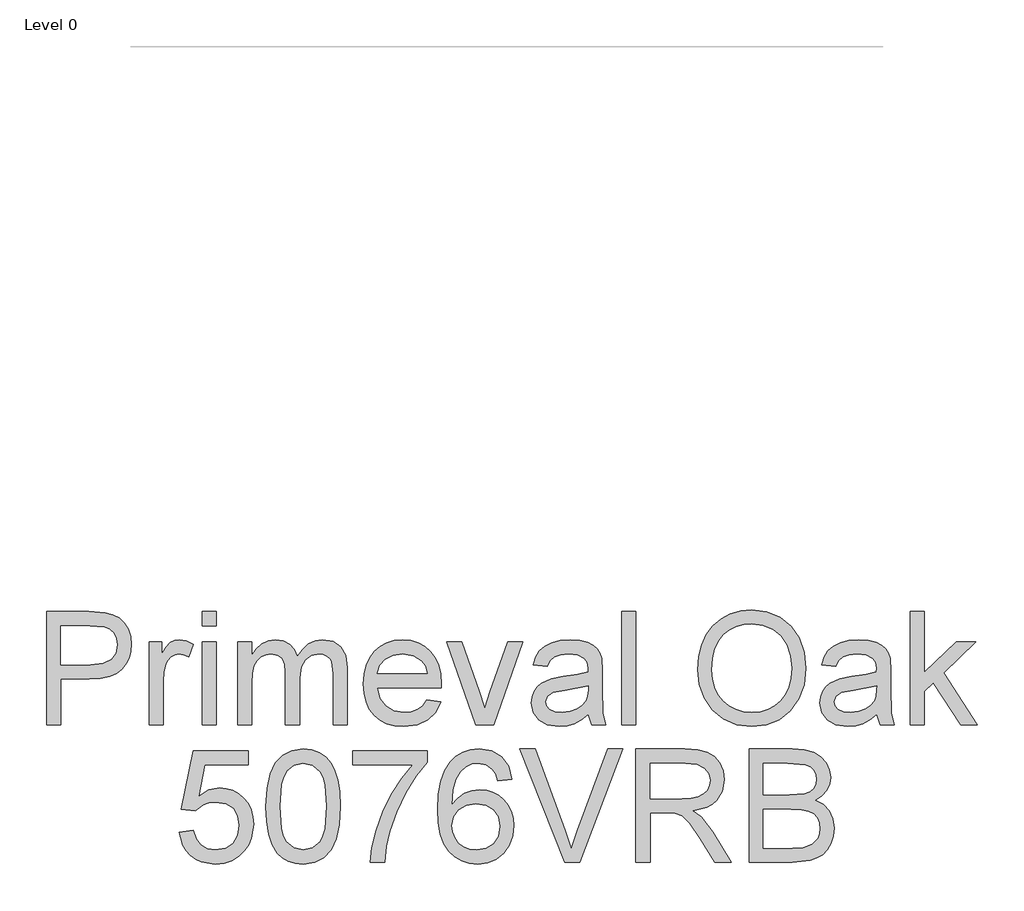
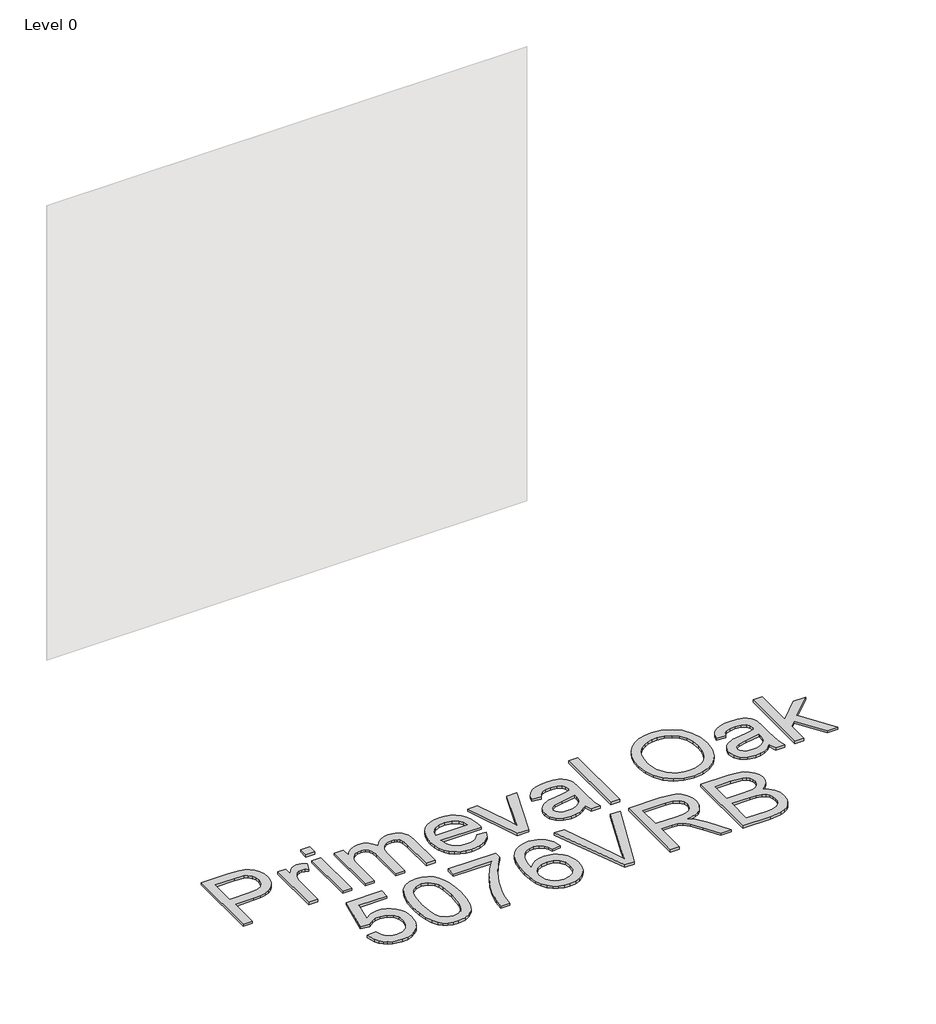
# One storey, part 4 of 43: 1 proxy.
"""IFC4 building model written with IfcOpenShell, lengths in millimetres."""

from ifc_helpers import new_model, si_unit, origin, origin_with_axes, place, context, project, spatial, polyline, outline, extrude, element, save

model = new_model("IFC4")

# Units and contexts
model_context = context("Model", 3, world=origin())
ifc_project = project(units=[si_unit("LENGTHUNIT", "METRE", prefix="MILLI")], contexts=[model_context])

# Site, building, storey
site = spatial("IfcSite", under=ifc_project)
building = spatial("IfcBuilding", under=site)
storey = spatial("IfcBuildingStorey", under=building, Name="Level 0", Elevation=0.0)

# Proxy
placement = place(None, origin())
element("IfcBuildingElementProxy", 1, Name="300mm Arial", ObjectType="300mm Arial", at=placement, inside=storey, context=model_context, shape_type="SweptSolid", body=[
    extrude(outline(polyline([(-10674.9693363, -37030.0303751), (-10674.9693363, -36728.6614447), (-10563.2803625, -36728.6614447), (-10518.2516063, -36731.5309242), (-10498.1744464, -36736.8928043), (-10481.6473478, -36745.6208046), (-10468.3392166, -36758.1103984), (-10457.9189591, -36774.7570587), (-10451.1867186, -36794.3927602), (-10448.9426384, -36815.8494775), (-10450.4578524, -36834.3493434), (-10455.0034943, -36851.3684842), (-10462.5795641, -36866.9068999), (-10473.1860619, -36880.9645907), (-10487.7472911, -36892.6172529), (-10507.1875553, -36900.940583), (-10531.5068544, -36905.9345811), (-10560.7051886, -36907.5992471), (-10637.2982199, -36907.5992471), (-10637.2982199, -37030.0303751), (-10674.9693363, -37030.0303751)]), holes=[polyline([(-10637.2982199, -36869.9281308), (-10558.4978966, -36869.9281308), (-10525.0942114, -36866.4700401), (-10503.0212917, -36856.0957678), (-10490.715639, -36839.4491075), (-10486.6137547, -36817.1738527), (-10489.0325788, -36800.2512809), (-10496.2890512, -36785.9774595), (-10507.4818609, -36775.2353053), (-10521.7096971, -36768.9077349), (-10559.3808134, -36766.332561), (-10637.2982199, -36766.332561), (-10637.2982199, -36869.9281308)])]), origin_with_axes(), (0.0, 0.0, 1.0), 10.0),
    extrude(outline(polyline([(-10401.853743, -37030.0303751), (-10401.853743, -36808.7125668), (-10368.8915163, -36808.7125668), (-10368.8915163, -36841.4540644), (-10356.7146222, -36822.4713534), (-10345.4942214, -36811.2877408), (-10334.2370323, -36805.8246932), (-10321.9497737, -36804.0036773), (-10303.1877919, -36806.909945), (-10284.1315046, -36815.6287483), (-10296.7130688, -36849.4003155), (-10309.9568206, -36843.6061741), (-10323.2005725, -36841.6747936), (-10334.4485645, -36843.5325977), (-10344.50094, -36849.1060099), (-10352.621935, -36857.971966), (-10358.0757856, -36869.7074016), (-10362.6559165, -36890.7502517), (-10364.1826267, -36913.7060882), (-10364.1826267, -37030.0303751), (-10401.853743, -37030.0303751)])), origin_with_axes(), (0.0, 0.0, 1.0), 10.0),
    extrude(outline(polyline([(-10260.5870569, -37030.0303751), (-10260.5870569, -36808.7125668), (-10222.9159406, -36808.7125668), (-10222.9159406, -37030.0303751), (-10260.5870569, -37030.0303751)])), origin_with_axes(), (0.0, 0.0, 1.0), 10.0),
    extrude(outline(polyline([(-10260.5870569, -36766.332561), (-10260.5870569, -36728.6614447), (-10222.9159406, -36728.6614447), (-10222.9159406, -36766.332561), (-10260.5870569, -36766.332561)])), origin_with_axes(), (0.0, 0.0, 1.0), 10.0),
    extrude(outline(polyline([(-10166.4092661, -37030.0303751), (-10166.4092661, -36808.7125668), (-10128.7381498, -36808.7125668), (-10128.7381498, -36845.1328843), (-10117.4073844, -36828.4034506), (-10102.8392574, -36815.2976545), (-10085.5304095, -36806.8271716), (-10065.9774814, -36804.0036773), (-10045.0266018, -36806.8823539), (-10028.2327887, -36815.5183837), (-10015.6880127, -36829.3415497), (-10007.4842442, -36847.7816347), (-9993.7530487, -36828.6287783), (-9978.0904728, -36814.9481666), (-9960.4965164, -36806.7397996), (-9940.9711795, -36804.0036773), (-9912.6534629, -36808.556217), (-9891.7117803, -36822.213836), (-9878.7715311, -36845.3444165), (-9874.4581148, -36878.3158403), (-9874.4581148, -37030.0303751), (-9912.1292311, -37030.0303751), (-9912.1292311, -36894.5026481), (-9915.62411, -36863.0487375), (-9920.5353346, -36854.3759195), (-9928.2792506, -36847.5609055), (-9938.2396557, -36843.1463216), (-9949.8003474, -36841.6747936), (-9970.208601, -36845.445584), (-9986.8460643, -36856.7579554), (-9997.9101153, -36876.3844598), (-10001.5981323, -36905.0976496), (-10001.5981323, -37030.0303751), (-10039.2692486, -37030.0303751), (-10039.2692486, -36890.3087934), (-10041.4489494, -36869.0084258), (-10047.9880519, -36853.8148994), (-10059.4935613, -36844.7098201), (-10076.5724829, -36841.6747936), (-10091.0854276, -36843.6981446), (-10104.4579381, -36849.7681975), (-10115.494398, -36859.7377996), (-10122.9991907, -36873.459798), (-10127.30341, -36892.4976912), (-10128.7381498, -36918.4149778), (-10128.7381498, -37030.0303751), (-10166.4092661, -37030.0303751)])), origin_with_axes(), (0.0, 0.0, 1.0), 10.0),
    extrude(outline(polyline([(-9662.9995439, -36964.1059216), (-9626.0641916, -36968.8148111), (-9639.3723228, -36996.6450841), (-9660.608311, -37017.4488109), (-9689.2939095, -37030.4166512), (-9724.9508719, -37034.7392647), (-9748.3251742, -37032.8745628), (-9769.1518936, -37027.2804572), (-9787.4310303, -37017.9569479), (-9803.1625841, -37004.9040349), (-9815.8131262, -36988.4850016), (-9824.8492277, -36969.0631315), (-9830.2708886, -36946.6384246), (-9832.0781089, -36921.2108809), (-9830.2524945, -36894.9211139), (-9824.7756513, -36871.7491467), (-9815.6475793, -36851.6949794), (-9802.8682785, -36834.7586121), (-9787.1781114, -36821.3033281), (-9769.3174405, -36811.692411), (-9749.2862659, -36805.9258607), (-9727.0845875, -36804.0036773), (-9705.5979797, -36805.9212622), (-9686.1669126, -36811.6740169), (-9668.7913861, -36821.2619414), (-9653.4714002, -36834.6850357), (-9640.9657117, -36851.5846148), (-9632.033077, -36871.6019939), (-9626.6734962, -36894.7371729), (-9624.8869692, -36920.9901518), (-9625.1076984, -36931.1436948), (-9794.4069926, -36931.1436948), (-9787.8862842, -36959.3418497), (-9772.7387431, -36980.0720002), (-9750.8773555, -36992.8191113), (-9724.2151079, -36997.0681484), (-9704.1655392, -36995.0999797), (-9687.2797556, -36989.1954737), (-9673.5577572, -36978.9867483), (-9662.9995439, -36964.1059216)]), holes=[polyline([(-9794.4069926, -36893.4725785), (-9662.5580855, -36893.4725785), (-9667.6532512, -36873.5701626), (-9677.6412473, -36859.3331294), (-9699.6038024, -36846.0893775), (-9727.2317403, -36841.6747936), (-9752.624795, -36845.1972637), (-9773.6216599, -36855.764674), (-9788.217378, -36872.2365903), (-9794.4069926, -36893.4725785)])]), origin_with_axes(), (0.0, 0.0, 1.0), 10.0),
    extrude(outline(polyline([(-9532.9164704, -37030.0303751), (-9610.7603006, -36808.7125668), (-9570.8818923, -36808.7125668), (-9523.7194205, -36941.2972379), (-9509.5191755, -36985.8845357), (-9495.6132361, -36943.7988355), (-9448.1564587, -36808.7125668), (-9408.2780505, -36808.7125668), (-9485.1653875, -37030.0303751), (-9532.9164704, -37030.0303751)])), origin_with_axes(), (0.0, 0.0, 1.0), 10.0),
    extrude(outline(polyline([(-9234.0491375, -37001.7770379), (-9252.0477642, -37017.2096876), (-9270.5798197, -37027.3080484), (-9290.0683684, -37032.8814606), (-9310.9364745, -37034.7392647), (-9342.4179763, -37030.2694984), (-9365.6405272, -37016.8601997), (-9379.9603339, -36996.4979313), (-9384.7336028, -36971.1692559), (-9382.930981, -36955.5526652), (-9377.5231157, -36941.3708143), (-9369.1813914, -36929.2307084), (-9358.5771929, -36919.739353), (-9332.2000539, -36907.3785179), (-9299.6057091, -36901.7131352), (-9261.0884642, -36895.7534469), (-9234.2698667, -36888.763689), (-9234.0491375, -36880.3759795), (-9236.6427056, -36863.5637723), (-9244.4234098, -36852.5641006), (-9261.8242282, -36844.3971204), (-9286.0676517, -36841.6747936), (-9308.5084534, -36843.4866124), (-9324.1802264, -36848.9220689), (-9334.8671983, -36858.9744444), (-9342.3535969, -36874.6370204), (-9380.0247132, -36869.9281308), (-9373.4856108, -36849.3267391), (-9363.7275408, -36833.1399313), (-9349.8399955, -36820.7607022), (-9330.9124669, -36811.5820464), (-9307.7634923, -36805.8982696), (-9281.2116093, -36804.0036773), (-9255.7449782, -36805.6775404), (-9235.5574537, -36810.6991296), (-9220.3363362, -36818.2499075), (-9209.7689259, -36827.5113368), (-9202.7607739, -36838.9616639), (-9198.2174312, -36853.0791354), (-9196.3780212, -36886.0413622), (-9196.3780212, -36932.9095284), (-9194.4650349, -36998.3557353), (-9186.9602422, -37030.0303751), (-9224.6313585, -37030.0303751), (-9234.0491375, -37001.7770379)]), holes=[polyline([(-9234.0491375, -36926.4348053), (-9294.8232432, -36937.9862999), (-9327.2336469, -36944.093141), (-9341.9121385, -36954.0259549), (-9347.0624865, -36968.5205055), (-9344.2573863, -36979.7225123), (-9335.8420856, -36988.9011681), (-9322.0005255, -36995.0264033), (-9302.916647, -36997.0681484), (-9282.6831373, -36994.8148711), (-9264.8040723, -36988.0550395), (-9250.3095217, -36978.0946345), (-9240.2295551, -36966.2396372), (-9235.7597888, -36954.0259549), (-9234.2698667, -36937.1033831), (-9234.0491375, -36926.4348053)])]), origin_with_axes(), (0.0, 0.0, 1.0), 10.0),
    extrude(outline(polyline([(-9144.5802363, -37030.0303751), (-9144.5802363, -36728.6614447), (-9106.90912, -36728.6614447), (-9106.90912, -37030.0303751), (-9144.5802363, -37030.0303751)])), origin_with_axes(), (0.0, 0.0, 1.0), 10.0),
    extrude(outline(polyline([(-8942.0979862, -36883.3190354), (-8939.5871916, -36847.9701742), (-8932.0548077, -36816.677212), (-8919.5008346, -36789.4401488), (-8901.9252723, -36766.2589846), (-8880.381183, -36747.7499217), (-8855.9216288, -36734.5291625), (-8828.5466098, -36726.596707), (-8798.2561261, -36723.9525551), (-8758.7272057, -36728.9189621), (-8723.2817754, -36743.8181829), (-8693.8512158, -36767.6017539), (-8672.3669073, -36799.2212113), (-8659.2335201, -36837.149845), (-8654.8557243, -36879.8609447), (-8659.4634463, -36923.1422614), (-8673.2866123, -36961.604324), (-8695.5618671, -36993.2789638), (-8725.5258556, -37016.1980121), (-8760.6677832, -37030.1039515), (-8798.4768553, -37034.7392647), (-8838.6127809, -37029.6165079), (-8874.2605463, -37014.2482375), (-8903.6175295, -36990.0232081), (-8924.8811088, -36958.3301743), (-8937.7937668, -36921.8638715), (-8942.0979862, -36883.3190354)]), holes=[polyline([(-8904.4268699, -36883.6869174), (-8902.5437739, -36908.6615064), (-8896.894486, -36930.8309951), (-8887.4790062, -36950.1953836), (-8874.2973345, -36966.754672), (-8858.2737743, -36980.0168179), (-8840.3326293, -36989.4897793), (-8820.4738993, -36995.1735561), (-8798.6975845, -36997.0681484), (-8776.5487891, -36995.155162), (-8756.4555344, -36989.4162029), (-8738.4178203, -36979.851271), (-8722.4356469, -36966.4603664), (-8709.3505441, -36949.5515902), (-8700.0040422, -36929.4330435), (-8694.396141, -36906.1047265), (-8692.5268406, -36879.5666391), (-8695.727414, -36846.2181362), (-8705.3291341, -36817.3945819), (-8721.0836805, -36793.8225431), (-8742.742733, -36776.2285866), (-8768.8715517, -36765.2749002), (-8798.0353969, -36761.6236714), (-8819.0552544, -36763.3826072), (-8838.5575986, -36768.6594146), (-8856.5424297, -36777.4540935), (-8873.0097475, -36789.7666441), (-8886.7547385, -36806.1902759), (-8896.5725893, -36827.3181987), (-8902.4632997, -36853.1504126), (-8904.4268699, -36883.6869174)])]), origin_with_axes(), (0.0, 0.0, 1.0), 10.0),
    extrude(outline(polyline([(-8466.5001428, -37001.7770379), (-8484.4987694, -37017.2096876), (-8503.0308249, -37027.3080484), (-8522.5193736, -37032.8814606), (-8543.3874798, -37034.7392647), (-8574.8689815, -37030.2694984), (-8598.0915325, -37016.8601997), (-8612.4113391, -36996.4979313), (-8617.184608, -36971.1692559), (-8615.3819863, -36955.5526652), (-8609.9741209, -36941.3708143), (-8601.6323967, -36929.2307084), (-8591.0281982, -36919.739353), (-8564.6510591, -36907.3785179), (-8532.0567144, -36901.7131352), (-8493.5394695, -36895.7534469), (-8466.720872, -36888.763689), (-8466.5001428, -36880.3759795), (-8469.0937109, -36863.5637723), (-8476.8744151, -36852.5641006), (-8494.2752334, -36844.3971204), (-8518.5186569, -36841.6747936), (-8540.9594586, -36843.4866124), (-8556.6312316, -36848.9220689), (-8567.3182036, -36858.9744444), (-8574.8046022, -36874.6370204), (-8612.4757185, -36869.9281308), (-8605.936616, -36849.3267391), (-8596.1785461, -36833.1399313), (-8582.2910008, -36820.7607022), (-8563.3634721, -36811.5820464), (-8540.2144976, -36805.8982696), (-8513.6626146, -36804.0036773), (-8488.1959835, -36805.6775404), (-8468.008459, -36810.6991296), (-8452.7873414, -36818.2499075), (-8442.2199311, -36827.5113368), (-8435.2117791, -36838.9616639), (-8430.6684365, -36853.0791354), (-8428.8290265, -36886.0413622), (-8428.8290265, -36932.9095284), (-8426.9160401, -36998.3557353), (-8419.4112474, -37030.0303751), (-8457.0823637, -37030.0303751), (-8466.5001428, -37001.7770379)]), holes=[polyline([(-8466.5001428, -36926.4348053), (-8527.2742484, -36937.9862999), (-8559.6846522, -36944.093141), (-8574.3631438, -36954.0259549), (-8579.5134917, -36968.5205055), (-8576.7083915, -36979.7225123), (-8568.2930909, -36988.9011681), (-8554.4515308, -36995.0264033), (-8535.3676523, -36997.0681484), (-8515.1341426, -36994.8148711), (-8497.2550776, -36988.0550395), (-8482.760527, -36978.0946345), (-8472.6805603, -36966.2396372), (-8468.2107941, -36954.0259549), (-8466.720872, -36937.1033831), (-8466.5001428, -36926.4348053)])]), origin_with_axes(), (0.0, 0.0, 1.0), 10.0),
    extrude(outline(polyline([(-8377.0312416, -37030.0303751), (-8377.0312416, -36728.6614447), (-8339.3601253, -36728.6614447), (-8339.3601253, -36890.6030989), (-8254.8944192, -36808.7125668), (-8202.8023287, -36808.7125668), (-8288.2981043, -36891.6331685), (-8198.0934391, -37030.0303751), (-8242.0921258, -37030.0303751), (-8315.3006428, -36917.8263666), (-8339.3601253, -36941.1500851), (-8339.3601253, -37030.0303751), (-8377.0312416, -37030.0303751)])), origin_with_axes(), (0.0, 0.0, 1.0), 10.0),
    extrude(outline(polyline([(-10321.8026209, -37315.9037065), (-10284.1315046, -37311.194817), (-10277.2153231, -37333.8103626), (-10265.1487936, -37350.0063675), (-10247.9870986, -37359.7460433), (-10225.7854201, -37362.9926019), (-10198.7828817, -37358.4768504), (-10178.549372, -37344.9295959), (-10165.9126254, -37323.914337), (-10161.7003766, -37296.994572), (-10165.645911, -37271.6475025), (-10177.4825142, -37252.2601213), (-10197.3021567, -37239.9544686), (-10225.196809, -37235.8525844), (-10243.4713471, -37237.4896592), (-10258.2694003, -37242.4008839), (-10279.422615, -37259.397032), (-10317.0937313, -37254.6881425), (-10284.1315046, -37099.2947877), (-10138.1559289, -37099.2947877), (-10138.1559289, -37136.9659041), (-10253.6708754, -37136.9659041), (-10269.7841068, -37219.9600822), (-10242.8735388, -37203.6261216), (-10214.6753839, -37198.181468), (-10196.3295686, -37199.8691267), (-10179.478274, -37204.9321027), (-10164.1215, -37213.3703959), (-10150.2592465, -37225.1840065), (-10138.7836275, -37239.650966), (-10130.5867568, -37256.0493059), (-10125.6686344, -37274.3790263), (-10124.0292603, -37294.6401272), (-10129.9337663, -37332.3112435), (-10137.3143988, -37349.1050566), (-10147.6472844, -37364.5377063), (-10163.3006633, -37380.3428365), (-10181.5660043, -37391.6322152), (-10202.4433076, -37398.4058424), (-10225.9325729, -37400.6637182), (-10262.9323046, -37394.8603797), (-10278.6109754, -37387.6062066), (-10292.4088495, -37377.4503643), (-10303.889067, -37364.8986905), (-10312.6147681, -37350.4570229), (-10321.8026209, -37315.9037065)])), origin_with_axes(), (0.0, 0.0, 1.0), 10.0),
    extrude(outline(polyline([(-10091.0670335, -37247.6983846), (-10088.2987215, -37199.459858), (-10079.9937855, -37160.9885983), (-10066.2349988, -37131.6959945), (-10047.1051351, -37110.9934352), (-10022.4662385, -37098.6877825), (-9992.1803532, -37094.5858982), (-9968.9669993, -37097.0139194), (-9948.1816666, -37104.2979829), (-9930.7992423, -37116.1529802), (-9917.7946138, -37132.2938027), (-9907.9721645, -37152.5824947), (-9900.136278, -37176.8811005), (-9895.0043242, -37207.7372029), (-9893.2936729, -37247.6983846), (-9896.0343938, -37295.6609997), (-9904.2565564, -37334.0402889), (-9917.9325695, -37363.3604839), (-9937.0348421, -37384.1458166), (-9961.7289211, -37396.5342428), (-9992.1803532, -37400.6637182), (-10012.9288977, -37398.8702935), (-10031.3229975, -37393.4900193), (-10047.3626525, -37384.5228957), (-10061.0478627, -37371.9689226), (-10074.1812499, -37349.275202), (-10083.5622408, -37320.9988721), (-10089.1908353, -37287.139933), (-10091.0670335, -37247.6983846)]), holes=[polyline([(-10053.3959172, -37247.6248082), (-10048.9813333, -37306.8814006), (-10043.4631033, -37327.1493992), (-10035.7375814, -37341.1771996), (-10016.0191065, -37357.5387513), (-9992.1803532, -37362.9926019), (-9968.3415999, -37357.5203572), (-9948.623125, -37341.1036232), (-9940.8976031, -37327.0528302), (-9935.3793732, -37306.7894301), (-9930.9647892, -37247.6248082), (-9935.2322204, -37189.7017881), (-9940.5665093, -37169.500468), (-9948.0345138, -37155.1392746), (-9967.7162005, -37137.9775795), (-9992.6218116, -37132.2570145), (-10016.2030475, -37137.2969978), (-10035.1489702, -37152.4169478), (-10043.1320095, -37168.0519326), (-10048.8341805, -37189.131571), (-10053.3959172, -37247.6248082)])]), origin_with_axes(), (0.0, 0.0, 1.0), 10.0),
    extrude(outline(polyline([(-9860.3314461, -37136.9659041), (-9860.3314461, -37099.2947877), (-9662.5580855, -37099.2947877), (-9662.5580855, -37129.7554169), (-9690.7470434, -37165.4307734), (-9718.6600898, -37210.7998205), (-9743.2805923, -37261.7238857), (-9761.5919186, -37314.0642965), (-9770.5682393, -37353.2253349), (-9775.5714344, -37395.9548287), (-9813.2425508, -37395.9548287), (-9809.1682577, -37357.1248841), (-9798.2697536, -37310.9740878), (-9780.841344, -37262.0549795), (-9757.1773347, -37214.9200988), (-9729.5493969, -37172.3101667), (-9700.2292018, -37136.9659041), (-9860.3314461, -37136.9659041)])), origin_with_axes(), (0.0, 0.0, 1.0), 10.0),
    extrude(outline(polyline([(-9436.5313877, -37174.6370204), (-9474.202504, -37179.3459099), (-9480.2725569, -37160.6758986), (-9488.4763254, -37147.9287875), (-9505.5644441, -37136.1749578), (-9526.2210181, -37132.2570145), (-9543.7322011, -37134.5378829), (-9560.2133145, -37141.380488), (-9574.3675742, -37155.7922652), (-9585.9282659, -37175.6303017), (-9593.7365613, -37203.6905009), (-9596.633632, -37242.7687659), (-9581.522879, -37225.1380212), (-9563.4138878, -37212.7128069), (-9543.3183338, -37205.3459699), (-9522.2478926, -37202.8903576), (-9504.1480984, -37204.5688192), (-9487.4462558, -37209.604204), (-9472.1423648, -37217.996512), (-9458.2364254, -37229.7457432), (-9446.6803322, -37244.1529219), (-9438.42598, -37260.5190721), (-9433.4733686, -37278.844194), (-9431.8224982, -37299.1282875), (-9434.931101, -37326.1032348), (-9444.2569096, -37351.1100134), (-9459.0273717, -37372.3184105), (-9478.4699351, -37387.898213), (-9501.7016831, -37397.4723419), (-9527.8396989, -37400.6637182), (-9550.2965954, -37398.5483967), (-9570.5783897, -37392.2024323), (-9588.6850816, -37381.6258249), (-9604.6166713, -37366.8185746), (-9617.605205, -37347.155282), (-9626.882729, -37322.0105476), (-9632.4492435, -37291.3843715), (-9634.3047483, -37255.2767537), (-9632.2446091, -37214.7959387), (-9626.0641916, -37180.2472208), (-9615.7634957, -37151.6306001), (-9601.3425215, -37128.9460766), (-9585.7121353, -37113.9134985), (-9567.5893485, -37103.1759428), (-9546.9741612, -37096.7334094), (-9523.8665733, -37094.5858982), (-9490.8123761, -37099.901793), (-9464.3432665, -37115.8494775), (-9445.802014, -37141.1781529), (-9436.5313877, -37174.6370204)]), holes=[polyline([(-9596.633632, -37298.5396763), (-9594.4539312, -37315.2323219), (-9587.9148287, -37331.1708093), (-9577.7612856, -37344.8744136), (-9564.738263, -37354.8624098), (-9549.0205048, -37360.9600539), (-9530.7827549, -37362.9926019), (-9505.923129, -37358.780353), (-9486.379398, -37346.1436065), (-9473.7150604, -37326.2779788), (-9469.4936145, -37300.3790863), (-9473.6598781, -37275.5194605), (-9486.1586688, -37256.5643407), (-9506.0334936, -37244.5621906), (-9532.3278592, -37240.5614739), (-9557.1506969, -37244.5621906), (-9577.9084384, -37256.5643407), (-9591.9523336, -37275.059608), (-9596.633632, -37298.5396763)])]), origin_with_axes(), (0.0, 0.0, 1.0), 10.0),
    extrude(outline(polyline([(-9295.7061599, -37395.9548287), (-9415.6356904, -37094.5858982), (-9375.3158237, -37094.5858982), (-9295.0439723, -37311.7098518), (-9278.7835882, -37360.6381571), (-9262.7439332, -37311.7098518), (-9182.2513526, -37094.5858982), (-9141.931486, -37094.5858982), (-9256.7842448, -37395.9548287), (-9295.7061599, -37395.9548287)])), origin_with_axes(), (0.0, 0.0, 1.0), 10.0),
    extrude(outline(polyline([(-9106.90912, -37395.9548287), (-9106.90912, -37094.5858982), (-8977.0467757, -37094.5858982), (-8942.1439714, -37096.6184462), (-8916.7509167, -37102.7160903), (-8898.1912701, -37113.9732794), (-8883.7886899, -37131.4844623), (-8874.5456548, -37153.1986971), (-8871.4646431, -37177.0650415), (-8876.5690058, -37206.7531185), (-8891.8820938, -37231.364424), (-8903.481873, -37241.3938069), (-8917.8637597, -37249.4090359), (-8954.973856, -37259.397032), (-8933.5631239, -37275.5102634), (-8903.0289183, -37314.2850257), (-8852.7762377, -37395.9548287), (-8896.5541952, -37395.9548287), (-8935.7704159, -37333.4884659), (-8964.0973295, -37292.1385296), (-8983.9997454, -37272.6039957), (-9001.9155986, -37265.4302968), (-9023.7677891, -37264.1059216), (-9069.2380037, -37264.1059216), (-9069.2380037, -37395.9548287), (-9106.90912, -37395.9548287)]), holes=[polyline([(-9069.2380037, -37226.4348053), (-8984.9194504, -37226.4348053), (-8960.7036181, -37225.101233), (-8941.9140452, -37221.1005163), (-8927.7689825, -37214.1659407), (-8917.4866807, -37204.0307918), (-8911.2234897, -37191.7711243), (-8909.1357594, -37178.4629931), (-8913.118082, -37160.0872874), (-8925.0650498, -37145.2800371), (-8945.6204563, -37135.5127702), (-8975.4280949, -37132.2570145), (-9069.2380037, -37132.2570145), (-9069.2380037, -37226.4348053)])]), origin_with_axes(), (0.0, 0.0, 1.0), 10.0),
    extrude(outline(polyline([(-8805.5401896, -37395.9548287), (-8805.5401896, -37094.5858982), (-8690.5402779, -37094.5858982), (-8658.9116233, -37096.8023872), (-8634.2175444, -37103.4518543), (-8615.2900158, -37114.6998463), (-8600.961012, -37130.7119101), (-8591.9387061, -37149.5474683), (-8588.9312708, -37169.2659432), (-8591.4604595, -37187.4117226), (-8599.0480257, -37204.4722502), (-8611.7491516, -37219.3990621), (-8629.6190195, -37231.1436948), (-8608.2726667, -37242.2905193), (-8592.4997262, -37259.2498792), (-8582.7600503, -37280.8997347), (-8579.5134917, -37306.1180454), (-8581.7299807, -37327.1333044), (-8588.3794478, -37346.6218531), (-8598.3030646, -37363.194937), (-8610.3420029, -37375.4638015), (-8625.0848739, -37384.3481517), (-8643.1202887, -37390.7676925), (-8691.4231947, -37395.9548287), (-8805.5401896, -37395.9548287)]), holes=[polyline([(-8767.8690733, -37358.2837124), (-8690.6138543, -37358.2837124), (-8662.6548226, -37356.8121844), (-8639.0000103, -37348.6084159), (-8623.3282374, -37331.8697851), (-8618.7205154, -37320.042379), (-8617.184608, -37306.4859274), (-8618.9872298, -37290.740578), (-8624.3950951, -37277.2025206), (-8633.8404654, -37266.6167162), (-8647.7556018, -37259.7281258), (-8667.4648797, -37255.9481383), (-8694.2926742, -37254.6881425), (-8767.8690733, -37254.6881425), (-8767.8690733, -37358.2837124)]), polyline([(-8767.8690733, -37217.0170262), (-8699.0751402, -37217.0170262), (-8658.9024263, -37213.7796646), (-8644.840137, -37208.1970554), (-8634.7325792, -37199.836937), (-8628.6349351, -37188.8280683), (-8626.6023871, -37175.2992079), (-8628.4969794, -37162.1658207), (-8634.1807562, -37150.7246907), (-8643.3962002, -37141.7943552), (-8655.8857939, -37136.1933519), (-8704.2990645, -37132.2570145), (-8767.8690733, -37132.2570145), (-8767.8690733, -37217.0170262)])]), origin_with_axes(), (0.0, 0.0, 1.0), 10.0),
])

save(model, "model.ifc")
